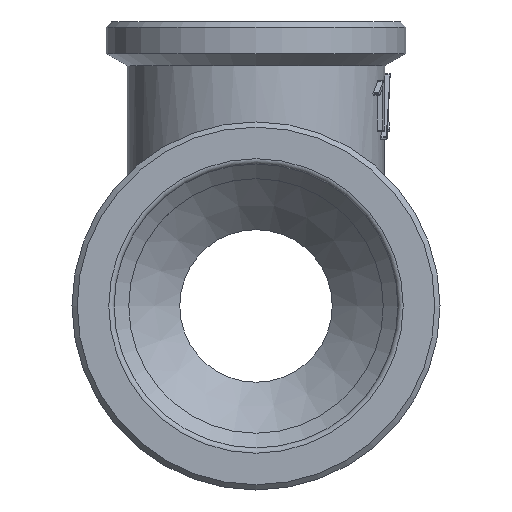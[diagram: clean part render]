
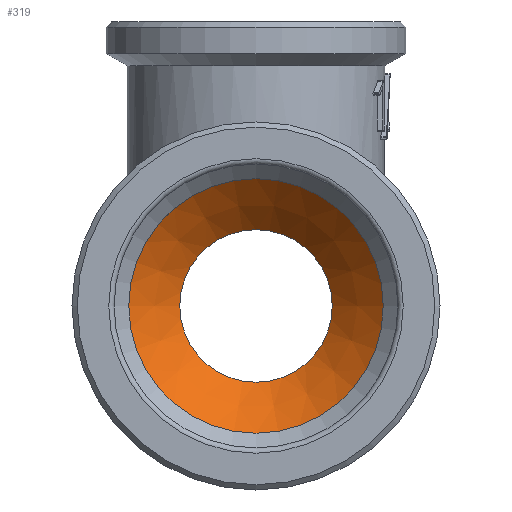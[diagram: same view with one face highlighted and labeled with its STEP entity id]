
A CAD part, front view. The second image highlights one B-rep face of the part: STEP entity #319.
In plain terms, the highlighted conical face has half-angle 45 degrees and reference radius 9.675 mm.
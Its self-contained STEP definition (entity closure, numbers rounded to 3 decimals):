
#319=ADVANCED_FACE('',(#2985,#2987),#2989,.F.);
#2985=FACE_OUTER_BOUND('',#2986,.T.);
#2986=EDGE_LOOP('',(#5338));
#2987=FACE_BOUND('',#2988,.T.);
#2988=EDGE_LOOP('',(#5339,#5340));
#2989=CONICAL_SURFACE('',#2990,9.675,0.785);
#2990=AXIS2_PLACEMENT_3D('',#2991,#2992,#2993);
#2991=CARTESIAN_POINT('',(0.,12.425,0.));
#2992=DIRECTION('',(0.,-1.,0.));
#2993=DIRECTION('',(1.,0.,0.));
#5338=ORIENTED_EDGE('',*,*,#6469,.F.);
#5339=ORIENTED_EDGE('',*,*,#6473,.F.);
#5340=ORIENTED_EDGE('',*,*,#6474,.F.);
#6469=EDGE_CURVE('',#7904,#7904,#7905,.F.);
#6473=EDGE_CURVE('',#7912,#7913,#7914,.T.);
#6474=EDGE_CURVE('',#7913,#7912,#7915,.T.);
#7904=VERTEX_POINT('',#14577);
#7905=CIRCLE('',#14578,12.1);
#7912=VERTEX_POINT('',#14739);
#7913=VERTEX_POINT('',#14740);
#7914=CIRCLE('',#14741,7.25);
#7915=CIRCLE('',#14745,7.25);
#14577=CARTESIAN_POINT('',(12.1,10.,0.));
#14578=AXIS2_PLACEMENT_3D('',#14579,#14580,#14581);
#14579=CARTESIAN_POINT('',(0.,10.,0.));
#14580=DIRECTION('',(0.,-1.,0.));
#14581=DIRECTION('',(1.,0.,0.));
#14739=CARTESIAN_POINT('',(-7.25,14.85,0.));
#14740=CARTESIAN_POINT('',(7.25,14.85,0.));
#14741=AXIS2_PLACEMENT_3D('',#14742,#14743,#14744);
#14742=CARTESIAN_POINT('',(0.,14.85,0.));
#14743=DIRECTION('',(0.,-1.,0.));
#14744=DIRECTION('',(-1.,0.,0.));
#14745=AXIS2_PLACEMENT_3D('',#14746,#14747,#14748);
#14746=CARTESIAN_POINT('',(0.,14.85,0.));
#14747=DIRECTION('',(0.,-1.,0.));
#14748=DIRECTION('',(1.,0.,0.));
